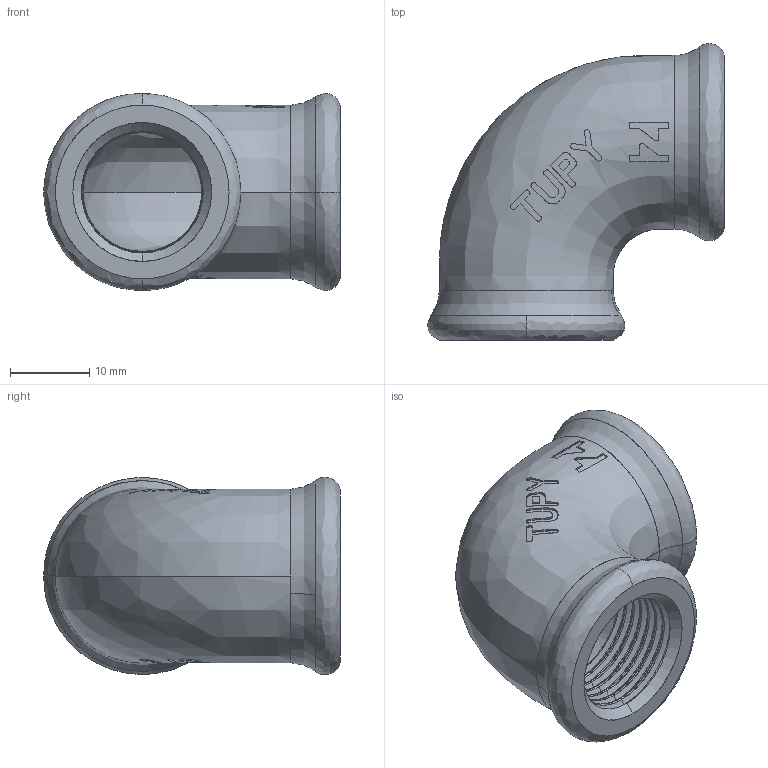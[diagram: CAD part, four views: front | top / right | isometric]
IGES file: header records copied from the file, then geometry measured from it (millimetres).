
Start section: SolidWorks IGES file using analytic representation for surfaces
Global section: file name: C:\Users\Joel Rosa\Desktop\Tubulação\12-07-OK\12-07-003.IGS; native system: SolidWorks 2011; preprocessor: SolidWorks 2011; author: Joel Rosa; date: 121204.003514; units: millimetre
Bounding box: 37.45 x 37.45 x 24.9 mm (x, y, z)
Surface area: 6366.2 mm2 (no closed solid volume)
Topology: 0 solids, 0 shells, 279 faces, 3213 edges, 3213 vertices
Faces by surface type: bspline 217, revolution 62
